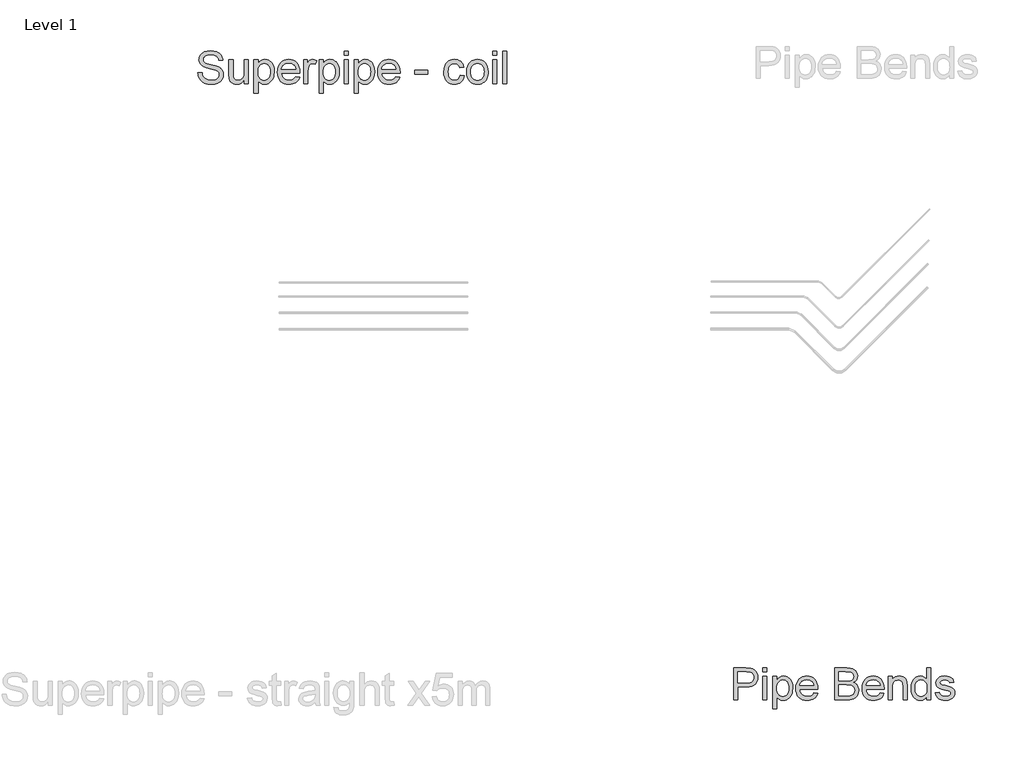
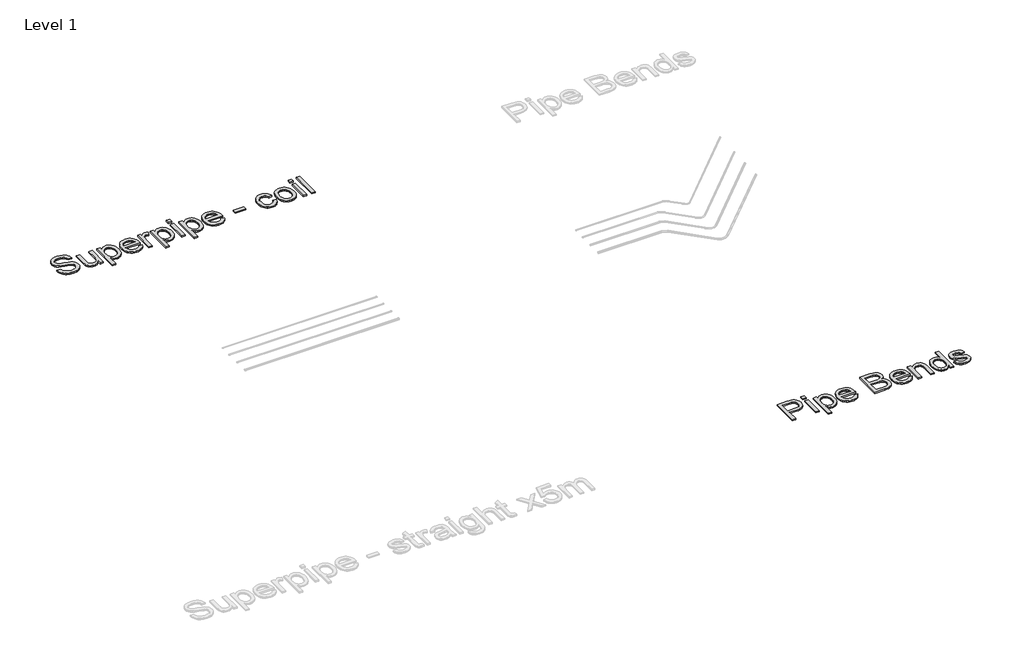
# One storey, part 9 of 58: 2 proxies.
"""IFC4 building model written with IfcOpenShell, lengths in millimetres."""

from ifc_helpers import new_model, si_unit, frame, origin, place, context, project, spatial, polyline, outline, extrude, element, save

model = new_model("IFC4")

# Units and contexts
model_context = context("Model", 3, world=origin())
ifc_project = project(units=[si_unit("LENGTHUNIT", "METRE", prefix="MILLI")], contexts=[model_context])

# Site, building, storey
site = spatial("IfcSite", under=ifc_project)
building = spatial("IfcBuilding", under=site)
storey = spatial("IfcBuildingStorey", under=building, Name="Level 1", Elevation=27.3876384)

# Proxies
placement = place(None, origin())
element("IfcBuildingElementProxy", 1, Name="600mm Arial", ObjectType="600mm Arial", at=placement, inside=storey, context=model_context, shape_type="SweptSolid", body=[
    extrude(outline(polyline([(-5306.6252631, 3428.1412239), (-5306.6252631, 4018.9104547), (-5087.6829554, 4018.9104547), (-5036.6973785, 4017.5042047), (-4999.4137246, 4013.2854547), (-4960.0567535, 4002.7746373), (-4927.6589169, 3985.6652623), (-4901.5711766, 3961.1820893), (-4881.1444939, 3928.5498777), (-4867.9473785, 3890.0582912), (-4863.54834, 3847.9969931), (-4866.5185924, 3811.7319691), (-4875.4293496, 3778.3695893), (-4890.2806117, 3747.9098537), (-4911.0723785, 3720.3527623), (-4939.6165492, 3697.5102143), (-4977.7250227, 3681.1941085), (-5025.3977992, 3671.404445), (-5082.6348785, 3668.1412239), (-5232.7791093, 3668.1412239), (-5232.7791093, 3428.1412239), (-5306.6252631, 3428.1412239)]), holes=[polyline([(-5232.7791093, 3741.9873777), (-5078.3079554, 3741.9873777), (-5042.7911285, 3743.6820893), (-5012.8271862, 3748.7662239), (-4988.4161285, 3757.2397816), (-4969.5579554, 3769.1027623), (-4955.486441, 3784.0396614), (-4945.4353593, 3801.7349739), (-4939.4047102, 3822.1886998), (-4937.3944939, 3845.4008393), (-4942.1360804, 3878.5739162), (-4956.36084, 3906.5546854), (-4978.3019458, 3927.6123777), (-5006.1925708, 3940.0162239), (-5034.6781477, 3943.8022816), (-5080.0387246, 3945.0643008), (-5232.7791093, 3945.0643008), (-5232.7791093, 3741.9873777)])]), frame((0.0, 0.0, 27.3876384), z_axis=(0.0, 0.0, 1.0), x_axis=(1.0, 0.0, 0.0)), (0.0, 0.0, 1.0), 30.0),
    extrude(outline(polyline([(-4771.2406477, 3428.1412239), (-4771.2406477, 3861.9873777), (-4697.3944939, 3861.9873777), (-4697.3944939, 3428.1412239), (-4771.2406477, 3428.1412239)])), frame((0.0, 0.0, 27.3876384), z_axis=(0.0, 0.0, 1.0), x_axis=(1.0, 0.0, 0.0)), (0.0, 0.0, 1.0), 30.0),
    extrude(outline(polyline([(-4771.2406477, 3945.0643008), (-4771.2406477, 4018.9104547), (-4697.3944939, 4018.9104547), (-4697.3944939, 3945.0643008), (-4771.2406477, 3945.0643008)])), frame((0.0, 0.0, 27.3876384), z_axis=(0.0, 0.0, 1.0), x_axis=(1.0, 0.0, 0.0)), (0.0, 0.0, 1.0), 30.0),
    extrude(outline(polyline([(-4586.6252631, 3261.9873777), (-4586.6252631, 3861.9873777), (-4512.7791093, 3861.9873777), (-4512.7791093, 3789.5835316), (-4488.6925708, 3825.2986758), (-4461.7214169, 3850.8094931), (-4430.2791093, 3866.1159835), (-4392.7791093, 3871.218147), (-4367.0249025, 3869.4332912), (-4342.8392054, 3864.0787239), (-4320.2220179, 3855.154445), (-4299.17334, 3842.6604547), (-4280.1529073, 3826.921272), (-4263.6204554, 3808.2614162), (-4249.5759843, 3786.6808873), (-4238.0194939, 3762.1796854), (-4222.5507439, 3707.7686277), (-4217.3944939, 3648.3816085), (-4223.2178112, 3585.2265604), (-4230.4969578, 3556.1505388), (-4240.6877631, 3528.7421854), (-4253.6505035, 3503.718147), (-4269.2454554, 3481.79507), (-4287.4726189, 3462.9729547), (-4308.3319939, 3447.2518008), (-4330.8004434, 3434.8524619), (-4353.8548304, 3425.9957912), (-4377.4951549, 3420.6817888), (-4401.7214169, 3418.9104547), (-4435.6697343, 3423.6520412), (-4465.9762246, 3437.8768008), (-4491.9197343, 3459.3491566), (-4512.7791093, 3485.8335316), (-4512.7791093, 3261.9873777), (-4586.6252631, 3261.9873777)]), holes=[polyline([(-4512.7791093, 3641.6027623), (-4510.7824145, 3606.01382), (-4504.7923304, 3575.4008393), (-4494.8088568, 3549.76382), (-4480.8319939, 3529.1027623), (-4464.0065732, 3513.20132), (-4445.4774266, 3501.843147), (-4425.244554, 3495.0282431), (-4403.3079554, 3492.7566085), (-4381.055852, 3495.1093729), (-4360.4533881, 3502.1676662), (-4341.5005636, 3513.9314883), (-4324.1973785, 3530.4008393), (-4309.7788088, 3551.8100941), (-4299.4798304, 3578.3936277), (-4293.3004434, 3610.1514402), (-4291.2406477, 3647.0835316), (-4293.2508641, 3682.3659835), (-4299.2815131, 3712.9248777), (-4309.3325948, 3738.7602143), (-4323.4041093, 3759.8719931), (-4340.2700948, 3776.2782431), (-4358.70459, 3787.9969931), (-4378.7075948, 3795.0282431), (-4400.2791093, 3797.3719931), (-4421.7830155, 3794.8795051), (-4442.0158881, 3787.4020412), (-4460.977727, 3774.9396013), (-4478.6685323, 3757.4921854), (-4493.5919097, 3735.2941686), (-4504.251465, 3708.5799258), (-4510.6471982, 3677.3494571), (-4512.7791093, 3641.6027623)])]), frame((0.0, 0.0, 27.3876384), z_axis=(0.0, 0.0, 1.0), x_axis=(1.0, 0.0, 0.0)), (0.0, 0.0, 1.0), 30.0),
    extrude(outline(polyline([(-3830.5675708, 3557.3719931), (-3758.1637246, 3548.1412239), (-3769.2649867, 3519.1418248), (-3784.251465, 3493.5859354), (-3803.1231597, 3471.4735556), (-3825.8800708, 3452.8046854), (-3852.2878232, 3437.9759595), (-3882.1120419, 3427.3840123), (-3915.352727, 3421.0288441), (-3952.0098785, 3418.9104547), (-3997.830191, 3422.5658032), (-4038.6565131, 3433.5318489), (-4074.4888448, 3451.8085917), (-4105.3271862, 3477.3960316), (-4130.1258641, 3509.5820292), (-4147.8392054, 3547.654445), (-4158.4672102, 3591.6132792), (-4162.0098785, 3641.4585316), (-4158.4311525, 3692.9939883), (-4147.6949746, 3738.4176662), (-4129.8013448, 3777.7295652), (-4104.7502631, 3810.9296854), (-4073.9930516, 3837.3058873), (-4038.9810323, 3856.1460316), (-3999.7142054, 3867.4501181), (-3956.1925708, 3871.218147), (-3914.072679, 3867.4591325), (-3875.9822343, 3856.1820893), (-3841.9212367, 3837.3870172), (-3811.8896862, 3811.0739162), (-3787.3749626, 3777.9459114), (-3769.8644458, 3738.7061277), (-3759.3581357, 3693.3545652), (-3755.8560323, 3641.8912239), (-3756.2887246, 3621.9873777), (-4088.1637246, 3621.9873777), (-4083.8863809, 3592.5192287), (-4075.3812727, 3566.7109354), (-4062.6484001, 3544.5624979), (-4045.6877631, 3526.0739162), (-4025.4368617, 3511.4975941), (-4002.8331958, 3501.0859354), (-3977.8767655, 3494.8389402), (-3950.5675708, 3492.7566085), (-3911.2646862, 3496.6147816), (-3878.1637246, 3508.1893008), (-3851.2646862, 3528.20132), (-3830.5675708, 3557.3719931)]), holes=[polyline([(-4088.1637246, 3695.8335316), (-3829.7021862, 3695.8335316), (-3839.6901669, 3734.8479547), (-3848.2809121, 3750.1905027), (-3859.2694939, 3762.7566085), (-3879.407715, 3777.9008393), (-3902.3223785, 3788.718147), (-3928.0134843, 3795.2085316), (-3956.4810323, 3797.3719931), (-3982.447078, 3795.6457311), (-4006.2586766, 3790.466945), (-4027.915828, 3781.8356349), (-4047.4185323, 3769.7518008), (-4063.7842174, 3754.7743369), (-4076.0303112, 3737.4621373), (-4084.1568136, 3717.8152022), (-4088.1637246, 3695.8335316)])]), frame((0.0, 0.0, 27.3876384), z_axis=(0.0, 0.0, 1.0), x_axis=(1.0, 0.0, 0.0)), (0.0, 0.0, 1.0), 30.0),
    extrude(outline(polyline([(-3442.0098785, 3428.1412239), (-3442.0098785, 4018.9104547), (-3216.5771862, 4018.9104547), (-3154.5759843, 4014.5655027), (-3106.1685323, 4001.530647), (-3069.0651669, 3979.4813681), (-3053.8938929, 3964.9546253), (-3040.9762246, 3948.093147), (-3023.2899266, 3911.17007), (-3017.3944939, 3872.5162239), (-3022.3524266, 3836.9453104), (-3037.2262246, 3803.5018008), (-3062.1240612, 3774.2409835), (-3097.1541093, 3751.218147), (-3074.8659482, 3741.716945), (-3055.3091573, 3729.3671854), (-3038.4837367, 3714.1688681), (-3024.3896862, 3696.1219931), (-3013.2523665, 3675.7764402), (-3005.2971381, 3653.6820893), (-3000.5240011, 3629.8389402), (-2998.9329554, 3604.2469931), (-3003.2779073, 3563.0510797), (-3016.3127631, 3524.8479547), (-3035.7658881, 3492.3599739), (-3059.3656477, 3468.3094931), (-3088.2658881, 3450.8936277), (-3123.6204554, 3438.3094931), (-3166.5831958, 3430.6832912), (-3218.3079554, 3428.1412239), (-3442.0098785, 3428.1412239)]), holes=[polyline([(-3368.1637246, 3501.9873777), (-3216.7214169, 3501.9873777), (-3161.9137246, 3504.8719931), (-3136.4750227, 3511.2722335), (-3115.5435323, 3520.9537239), (-3098.5243016, 3534.8179066), (-3084.8223785, 3553.7662239), (-3075.7899266, 3576.95132), (-3072.7791093, 3603.5258393), (-3076.3127631, 3634.3912239), (-3086.9137246, 3660.9296854), (-3105.4293496, 3681.6808873), (-3132.7069939, 3695.1844931), (-3171.3428112, 3702.5943489), (-3223.9329554, 3705.0643008), (-3368.1637246, 3705.0643008), (-3368.1637246, 3501.9873777)]), polyline([(-3368.1637246, 3778.9104547), (-3233.3079554, 3778.9104547), (-3186.1444939, 3780.4969931), (-3154.5579554, 3785.2566085), (-3126.9918496, 3796.2001181), (-3107.1781477, 3812.5883393), (-3095.2250227, 3834.1688681), (-3091.2406477, 3860.6893008), (-3094.95459, 3886.4344931), (-3106.0964169, 3908.8623777), (-3124.1613208, 3926.3683873), (-3148.6444939, 3937.3479547), (-3186.2166093, 3943.1352143), (-3243.54834, 3945.0643008), (-3368.1637246, 3945.0643008), (-3368.1637246, 3778.9104547)])]), frame((0.0, 0.0, 27.3876384), z_axis=(0.0, 0.0, 1.0), x_axis=(1.0, 0.0, 0.0)), (0.0, 0.0, 1.0), 30.0),
    extrude(outline(polyline([(-2602.8752631, 3557.3719931), (-2530.4714169, 3548.1412239), (-2541.572679, 3519.1418248), (-2556.5591573, 3493.5859354), (-2575.430852, 3471.4735556), (-2598.1877631, 3452.8046854), (-2624.5955155, 3437.9759595), (-2654.4197343, 3427.3840123), (-2687.6604193, 3421.0288441), (-2724.3175708, 3418.9104547), (-2770.1378833, 3422.5658032), (-2810.9642054, 3433.5318489), (-2846.7965371, 3451.8085917), (-2877.6348785, 3477.3960316), (-2902.4335564, 3509.5820292), (-2920.1468977, 3547.654445), (-2930.7749025, 3591.6132792), (-2934.3175708, 3641.4585316), (-2930.7388448, 3692.9939883), (-2920.0026669, 3738.4176662), (-2902.1090371, 3777.7295652), (-2877.0579554, 3810.9296854), (-2846.3007439, 3837.3058873), (-2811.2887246, 3856.1460316), (-2772.0218977, 3867.4501181), (-2728.5002631, 3871.218147), (-2686.3803713, 3867.4591325), (-2648.2899266, 3856.1820893), (-2614.228929, 3837.3870172), (-2584.1973785, 3811.0739162), (-2559.6826549, 3777.9459114), (-2542.1721381, 3738.7061277), (-2531.665828, 3693.3545652), (-2528.1637246, 3641.8912239), (-2528.5964169, 3621.9873777), (-2860.4714169, 3621.9873777), (-2856.1940732, 3592.5192287), (-2847.688965, 3566.7109354), (-2834.9560924, 3544.5624979), (-2817.9954554, 3526.0739162), (-2797.744554, 3511.4975941), (-2775.1408881, 3501.0859354), (-2750.1844578, 3494.8389402), (-2722.8752631, 3492.7566085), (-2683.5723785, 3496.6147816), (-2650.4714169, 3508.1893008), (-2623.5723785, 3528.20132), (-2602.8752631, 3557.3719931)]), holes=[polyline([(-2860.4714169, 3695.8335316), (-2602.0098785, 3695.8335316), (-2611.9978593, 3734.8479547), (-2620.5886044, 3750.1905027), (-2631.5771862, 3762.7566085), (-2651.7154073, 3777.9008393), (-2674.6300708, 3788.718147), (-2700.3211766, 3795.2085316), (-2728.7887246, 3797.3719931), (-2754.7547703, 3795.6457311), (-2778.5663689, 3790.466945), (-2800.2235203, 3781.8356349), (-2819.7262246, 3769.7518008), (-2836.0919097, 3754.7743369), (-2848.3380035, 3737.4621373), (-2856.4645059, 3717.8152022), (-2860.4714169, 3695.8335316)])]), frame((0.0, 0.0, 27.3876384), z_axis=(0.0, 0.0, 1.0), x_axis=(1.0, 0.0, 0.0)), (0.0, 0.0, 1.0), 30.0),
    extrude(outline(polyline([(-2454.3175708, 3428.1412239), (-2454.3175708, 3861.9873777), (-2380.4714169, 3861.9873777), (-2380.4714169, 3801.4104547), (-2354.8163689, 3831.95132), (-2324.0050708, 3853.7662239), (-2288.0375227, 3866.8551662), (-2246.9137246, 3871.218147), (-2210.5134843, 3867.702522), (-2177.1781477, 3857.155647), (-2149.3776669, 3840.8936277), (-2129.5819939, 3820.23257), (-2116.1505035, 3795.2265604), (-2107.4425708, 3765.9296854), (-2103.54834, 3694.5354547), (-2103.54834, 3428.1412239), (-2177.3944939, 3428.1412239), (-2177.3944939, 3684.5835316), (-2179.5218977, 3722.7686277), (-2185.9041093, 3749.92007), (-2197.6769458, 3769.373195), (-2215.9762246, 3784.4633393), (-2239.4317535, 3794.1448297), (-2266.67334, 3797.3719931), (-2289.0967174, 3795.5600941), (-2309.9245419, 3790.124397), (-2329.1568136, 3781.0649018), (-2346.7935323, 3768.3816085), (-2361.5276068, 3750.6322095), (-2372.0519458, 3726.374397), (-2378.3665492, 3695.608171), (-2380.4714169, 3658.3335316), (-2380.4714169, 3428.1412239), (-2454.3175708, 3428.1412239)])), frame((0.0, 0.0, 27.3876384), z_axis=(0.0, 0.0, 1.0), x_axis=(1.0, 0.0, 0.0)), (0.0, 0.0, 1.0), 30.0),
    extrude(outline(polyline([(-1734.3175708, 3428.1412239), (-1734.3175708, 3497.8046854), (-1756.4119218, 3463.2884595), (-1783.1757439, 3438.6340123), (-1814.6090371, 3423.8413441), (-1850.7118016, 3418.9104547), (-1875.0868016, 3420.6953104), (-1898.4521862, 3426.0498777), (-1920.8079554, 3434.9741566), (-1942.1541093, 3447.468147), (-1961.8235804, 3463.1577503), (-1979.1493016, 3481.6688681), (-1994.1312727, 3503.0015003), (-2006.7694939, 3527.155647), (-2016.8025468, 3553.6715724), (-2023.9690131, 3582.0895412), (-2029.7021862, 3644.6316085), (-2024.4197343, 3706.3984354), (-2008.5723785, 3762.1796854), (-1996.6913689, 3787.0324498), (-1982.1781477, 3808.8022816), (-1965.032715, 3827.4891806), (-1945.2550708, 3843.093147), (-1923.5438328, 3855.3978345), (-1900.5976189, 3864.186897), (-1876.416429, 3869.4603345), (-1851.0002631, 3871.218147), (-1814.8704554, 3866.1880989), (-1782.92334, 3851.0979547), (-1755.8440131, 3827.966945), (-1734.3175708, 3798.8143008), (-1734.3175708, 4018.9104547), (-1660.4714169, 4018.9104547), (-1660.4714169, 3428.1412239), (-1734.3175708, 3428.1412239)]), holes=[polyline([(-1955.8560323, 3644.92007), (-1953.7737006, 3609.1102744), (-1947.5267054, 3578.123195), (-1937.1150468, 3551.9588321), (-1922.5387246, 3530.6171854), (-1905.1318737, 3514.053183), (-1886.2286285, 3502.2217527), (-1865.8289891, 3495.1228946), (-1843.9329554, 3492.7566085), (-1821.9332559, 3495.0147215), (-1801.6553112, 3501.7890604), (-1783.0991213, 3513.0796253), (-1766.2646862, 3528.8864162), (-1752.2878232, 3549.3356349), (-1742.3043496, 3574.5534835), (-1736.3142655, 3604.5399619), (-1734.3175708, 3639.29507), (-1736.3503232, 3677.3990364), (-1742.4485804, 3710.07632), (-1752.6123424, 3737.326921), (-1766.8416093, 3759.1508393), (-1784.0456357, 3775.8725941), (-1803.1336766, 3787.8167047), (-1824.1057318, 3794.983171), (-1846.9618016, 3797.3719931), (-1869.2905275, 3795.0778224), (-1889.6901669, 3788.1953104), (-1908.1607198, 3776.7244571), (-1924.7021862, 3760.6652623), (-1938.3319939, 3739.6661638), (-1948.0675708, 3713.3755989), (-1953.9089169, 3681.7935676), (-1955.8560323, 3644.92007)])]), frame((0.0, 0.0, 27.3876384), z_axis=(0.0, 0.0, 1.0), x_axis=(1.0, 0.0, 0.0)), (0.0, 0.0, 1.0), 30.0),
    extrude(outline(polyline([(-1577.3944939, 3557.3719931), (-1503.54834, 3566.6027623), (-1499.0862006, 3549.76382), (-1491.9017054, 3535.0162239), (-1481.9948544, 3522.3599739), (-1469.3656477, 3511.79507), (-1453.9780275, 3503.4657431), (-1435.7959362, 3497.5162239), (-1391.04834, 3492.7566085), (-1346.8416093, 3497.1195893), (-1329.6601189, 3502.5733152), (-1315.7598785, 3510.2085316), (-1297.3704554, 3529.1748777), (-1291.2406477, 3551.17007), (-1292.7821141, 3561.140022), (-1297.4065131, 3569.9921854), (-1315.9041093, 3584.343147), (-1343.5603593, 3593.718147), (-1391.9137246, 3605.4008393), (-1459.3055516, 3624.890022), (-1503.1156477, 3641.530647), (-1531.2586766, 3659.685695), (-1551.6493016, 3683.718147), (-1564.0351189, 3712.0955508), (-1568.1637246, 3743.2854547), (-1564.8464169, 3771.8972335), (-1554.8944939, 3798.3094931), (-1539.2093977, 3821.4765604), (-1518.6925708, 3840.3527623), (-1498.3019458, 3852.233772), (-1471.7454554, 3862.2037239), (-1441.0423304, 3868.9645412), (-1408.2118016, 3871.218147), (-1360.1468977, 3867.5943489), (-1318.3560323, 3856.7229547), (-1284.7502631, 3839.6676662), (-1261.2406477, 3817.4921854), (-1245.6637246, 3788.5558873), (-1235.8560323, 3751.218147), (-1309.7021862, 3741.9873777), (-1319.0230996, 3765.2265604), (-1337.4666093, 3782.73257), (-1365.2130035, 3793.7121373), (-1402.4425708, 3797.3719931), (-1444.8464169, 3793.874397), (-1473.1156477, 3783.3816085), (-1489.01709, 3768.2373777), (-1494.3175708, 3750.7854547), (-1492.1180516, 3739.4272816), (-1485.5194939, 3729.29507), (-1474.2334362, 3720.2445893), (-1457.9714169, 3712.9969931), (-1394.3656477, 3697.2758393), (-1285.9762246, 3662.5162239), (-1257.3464169, 3645.8936277), (-1235.6396862, 3623.1412239), (-1221.9557919, 3594.186897), (-1217.3944939, 3558.9585316), (-1222.7490612, 3522.5402623), (-1238.8127631, 3488.2854547), (-1264.9726189, 3458.8804066), (-1300.6156477, 3437.0114162), (-1343.6685323, 3423.435695), (-1392.0579554, 3418.9104547), (-1431.8025468, 3421.091945), (-1466.51709, 3427.6364162), (-1496.2015852, 3438.5438681), (-1520.8560323, 3453.8143008), (-1540.9942535, 3473.3755989), (-1557.1300708, 3497.155647), (-1569.2634843, 3525.154445), (-1577.3944939, 3557.3719931)])), frame((0.0, 0.0, 27.3876384), z_axis=(0.0, 0.0, 1.0), x_axis=(1.0, 0.0, 0.0)), (0.0, 0.0, 1.0), 30.0),
])
element("IfcBuildingElementProxy", 2, Name="600mm Arial", ObjectType="600mm Arial", at=placement, inside=storey, context=model_context, shape_type="SweptSolid", body=[
    extrude(outline(polyline([(-15222.1955142, 15041.5710619), (-15146.8532816, 15041.5710619), (-15138.2080547, 14999.7612731), (-15122.5730699, 14966.1552529), (-15098.1824936, 14939.4838082), (-15063.2704923, 14918.4777463), (-15020.5961809, 14904.8477184), (-14972.9186743, 14900.3043757), (-14930.9433386, 14903.7440724), (-14894.1919273, 14914.0631623), (-14864.4118798, 14930.3971229), (-14843.3506356, 14951.8814314), (-14830.8242536, 14976.5479192), (-14826.648793, 15002.4284176), (-14829.77579, 15027.6467284), (-14839.1567808, 15049.4437366), (-14858.2130682, 15068.0401714), (-14890.3659546, 15083.6567621), (-15000.0683655, 15112.4251341), (-15072.0812661, 15131.4630274), (-15118.158486, 15149.5812157), (-15155.6640554, 15174.9282851), (-15182.2435295, 15205.6464317), (-15198.0808494, 15241.0734679), (-15203.3599561, 15280.5472059), (-15201.7274797, 15302.9834091), (-15196.8300506, 15324.6746513), (-15188.6676689, 15345.6209324), (-15177.2403344, 15365.8222524), (-15162.6768059, 15384.4554755), (-15145.1058421, 15400.6974656), (-15124.527443, 15414.5482227), (-15100.9416086, 15426.0077468), (-15047.9298131, 15441.4036083), (-14989.2526349, 15446.5355622), (-14925.6826261, 15441.164485), (-14870.0588684, 15425.0512536), (-14845.7234744, 15413.0491036), (-14824.3679246, 15398.5269618), (-14805.992219, 15381.4848284), (-14790.5963575, 15361.9227033), (-14778.2999018, 15340.4108036), (-14769.2224135, 15317.5193465), (-14763.3638928, 15293.2483318), (-14760.7243395, 15267.5977597), (-14836.0665721, 15267.5977597), (-14841.1065554, 15291.6388481), (-14849.8989351, 15312.5529395), (-14862.4437111, 15330.340034), (-14878.7408835, 15345.0001315), (-14899.0939549, 15356.4596556), (-14923.8064279, 15364.64503), (-14952.8783026, 15369.5562547), (-14986.3095789, 15371.1933296), (-15020.807713, 15369.5746488), (-15050.2842579, 15364.7186064), (-15074.7392135, 15356.6252025), (-15094.1725799, 15345.2944371), (-15108.9798302, 15331.6736062), (-15119.5564376, 15316.7100061), (-15125.902402, 15300.4036366), (-15128.0177234, 15282.7544979), (-15126.5186043, 15267.5701686), (-15122.0212469, 15253.8021849), (-15114.5256513, 15241.4505469), (-15104.0318174, 15230.5152546), (-15087.5139158, 15220.1593764), (-15061.5046587, 15209.6931337), (-14981.0120782, 15188.4295543), (-14897.9443237, 15168.2328328), (-14847.6916431, 15150.6112852), (-14804.7414202, 15123.277653), (-14788.1361466, 15107.2104069), (-14774.7774317, 15089.542874), (-14764.5089255, 15070.367025), (-14757.1742782, 15049.7748304), (-14751.3065604, 15004.341404), (-14752.994219, 14980.7739636), (-14758.057195, 14957.8963021), (-14766.4954883, 14935.7084192), (-14778.3090988, 14914.2103151), (-14793.2910931, 14894.2343228), (-14811.2345374, 14876.6127752), (-14832.1394318, 14861.3456724), (-14856.0057762, 14848.4330144), (-14882.1391934, 14838.1645082), (-14909.8453062, 14830.8298609), (-14969.9756183, 14824.9621431), (-15008.5158558, 14826.5440357), (-15043.7911406, 14831.2897134), (-15075.8014728, 14839.1991763), (-15104.5468522, 14850.2724244), (-15130.2020228, 14864.5278517), (-15152.9417286, 14881.9838524), (-15172.7659696, 14902.6404264), (-15189.6747458, 14926.4975738), (-15203.2955767, 14952.7827423), (-15213.2559817, 14980.7233799), (-15219.5559609, 15010.3194864), (-15222.1955142, 15041.5710619)])), frame((0.0, 0.0, 27.3876384), z_axis=(0.0, 0.0, 1.0), x_axis=(1.0, 0.0, 0.0)), (0.0, 0.0, 1.0), 30.0),
    extrude(outline(polyline([(-14365.1776182, 14834.3799222), (-14365.1776182, 14910.4579188), (-14392.4376741, 14873.0535169), (-14424.1858903, 14846.336087), (-14460.4222668, 14830.3056291), (-14501.1468037, 14824.9621431), (-14537.8430327, 14828.7145395), (-14572.0008759, 14839.9717285), (-14600.6588834, 14856.8943003), (-14620.8556049, 14877.6428448), (-14634.4488446, 14902.8427615), (-14643.2964066, 14933.1194497), (-14647.7109905, 15003.1641816), (-14647.7109905, 15277.0155388), (-14572.3687579, 15277.0155388), (-14572.3687579, 15038.6280059), (-14571.2283237, 14990.9504993), (-14567.8070212, 14961.8142453), (-14556.8257436, 14936.1912644), (-14538.0085796, 14916.7119127), (-14512.6063278, 14904.40626), (-14481.8697871, 14900.3043757), (-14449.3674128, 14904.4982305), (-14418.9619659, 14917.0797947), (-14393.890808, 14936.8902401), (-14377.3913005, 14962.7707385), (-14368.2310388, 14998.2161687), (-14365.1776182, 15046.7214098), (-14365.1776182, 15277.0155388), (-14289.8353856, 15277.0155388), (-14289.8353856, 14834.3799222), (-14365.1776182, 14834.3799222)])), frame((0.0, 0.0, 27.3876384), z_axis=(0.0, 0.0, 1.0), x_axis=(1.0, 0.0, 0.0)), (0.0, 0.0, 1.0), 30.0),
    extrude(outline(polyline([(-14186.2398158, 14664.8598988), (-14186.2398158, 15277.0155388), (-14110.8975832, 15277.0155388), (-14110.8975832, 15203.1448342), (-14086.3230659, 15239.5835458), (-14058.8054927, 15265.6111969), (-14026.7261827, 15281.2277876), (-13988.4664552, 15286.4333179), (-13962.1904837, 15284.612302), (-13937.5147989, 15279.1492544), (-13914.4394007, 15270.044175), (-13892.9642892, 15257.2970638), (-13873.558514, 15241.2390148), (-13856.6911245, 15222.2011215), (-13842.3621208, 15200.1833841), (-13830.5715029, 15175.1858025), (-13814.7893653, 15119.6724094), (-13809.5286527, 15059.0822448), (-13815.469947, 14994.6477134), (-13822.8965647, 14964.982629), (-13833.2938296, 14937.0189988), (-13846.5191873, 14911.4879884), (-13862.4300836, 14889.1207631), (-13881.0265185, 14869.9173229), (-13902.3084919, 14853.8776679), (-13925.2321387, 14841.2271258), (-13948.7535938, 14832.1910243), (-13972.8728571, 14826.7693634), (-13997.5899287, 14824.9621431), (-14032.2260185, 14829.7997914), (-14063.1465002, 14844.3127361), (-14089.6156098, 14866.2201089), (-14110.8975832, 14893.2410414), (-14110.8975832, 14664.8598988), (-14186.2398158, 14664.8598988)]), holes=[polyline([(-14110.8975832, 15052.1660633), (-14108.8604366, 15015.8561104), (-14102.748997, 14984.622929), (-14092.5632642, 14958.4665192), (-14078.3032384, 14937.3868808), (-14061.1369448, 14921.1632849), (-14042.2324088, 14909.575002), (-14021.5896303, 14902.6220323), (-13999.2086094, 14900.3043757), (-13976.5056918, 14902.7048057), (-13955.4858343, 14909.9060958), (-13936.1490369, 14921.9082459), (-13918.4952997, 14938.711256), (-13903.7846184, 14960.5542495), (-13893.2769889, 14987.6763496), (-13886.9724112, 15020.0775563), (-13884.8708853, 15057.7578697), (-13886.9218275, 15093.7551229), (-13893.0746538, 15124.933122), (-13903.3293645, 15151.2918669), (-13917.6859593, 15172.8313578), (-13934.8936396, 15189.5699885), (-13953.7016066, 15201.5261534), (-13974.1098603, 15208.6998523), (-13996.1184007, 15211.0910853), (-14018.0579632, 15208.548101), (-14038.7007416, 15200.9191481), (-14058.046736, 15188.2042266), (-14076.0959464, 15170.4033366), (-14091.3216625, 15147.7556013), (-14102.197174, 15120.5001439), (-14108.7224809, 15088.6369646), (-14110.8975832, 15052.1660633)])]), frame((0.0, 0.0, 27.3876384), z_axis=(0.0, 0.0, 1.0), x_axis=(1.0, 0.0, 0.0)), (0.0, 0.0, 1.0), 30.0),
    extrude(outline(polyline([(-13414.8648483, 14966.2288293), (-13340.9941437, 14956.8110502), (-13352.3203106, 14927.2241407), (-13367.610406, 14901.1505043), (-13386.8644299, 14878.590141), (-13410.0823824, 14859.5430507), (-13437.02514, 14844.4139036), (-13467.4535795, 14833.60737), (-13501.3677009, 14827.1234498), (-13538.7675043, 14824.9621431), (-13585.5161088, 14828.6915468), (-13627.1695477, 14839.879758), (-13663.727821, 14858.5267766), (-13695.1909286, 14884.6326027), (-13720.4920128, 14917.4706693), (-13738.5642159, 14956.3144095), (-13749.4075377, 15001.1638232), (-13753.0219783, 15052.0189105), (-13749.3707495, 15104.5984447), (-13738.4170631, 15150.942379), (-13720.1609191, 15191.0507136), (-13694.6023174, 15224.9234483), (-13663.2219832, 15251.8340162), (-13627.5006415, 15271.0558505), (-13587.4382922, 15282.588951), (-13543.0349354, 15286.4333179), (-13500.0617199, 15282.5981481), (-13461.1995856, 15271.0926387), (-13426.4485326, 15251.9167897), (-13395.808561, 15225.0706011), (-13370.7971838, 15191.2714428), (-13352.9319144, 15151.2366846), (-13342.2127528, 15104.9663267), (-13338.6396989, 15052.4603689), (-13339.0811573, 15032.1532828), (-13677.6797457, 15032.1532828), (-13673.3157455, 15002.0881267), (-13664.6383289, 14975.7569729), (-13651.647496, 14953.1598214), (-13634.3432466, 14934.2966721), (-13613.6820741, 14919.4250424), (-13590.6204715, 14908.8024498), (-13565.1584389, 14902.4288942), (-13537.2959763, 14900.3043757), (-13497.1968388, 14904.2407131), (-13463.4252717, 14916.0497251), (-13435.9812748, 14936.4671759), (-13414.8648483, 14966.2288293)]), holes=[polyline([(-13677.6797457, 15107.4955154), (-13413.9819315, 15107.4955154), (-13424.1722628, 15147.3003473), (-13432.9370513, 15162.9537262), (-13444.1482551, 15175.7744137), (-13464.6944646, 15191.2254575), (-13488.0733653, 15202.2619174), (-13514.2849575, 15208.8837933), (-13543.329241, 15211.0910853), (-13569.8213432, 15209.3298502), (-13594.1153505, 15204.046145), (-13616.2112628, 15195.2399698), (-13636.1090802, 15182.9113244), (-13652.8063243, 15167.630426), (-13665.3005165, 15149.9674918), (-13673.591657, 15129.9225215), (-13677.6797457, 15107.4955154)])]), frame((0.0, 0.0, 27.3876384), z_axis=(0.0, 0.0, 1.0), x_axis=(1.0, 0.0, 0.0)), (0.0, 0.0, 1.0), 30.0),
    extrude(outline(polyline([(-13263.2974663, 14834.3799222), (-13263.2974663, 15277.0155388), (-13197.3730128, 15277.0155388), (-13197.3730128, 15211.5325436), (-13173.0192247, 15249.4979655), (-13150.578423, 15271.8651909), (-13128.0640449, 15282.7912861), (-13103.4895276, 15286.4333179), (-13065.9655641, 15280.6207823), (-13027.8529894, 15263.1831758), (-13053.0161178, 15195.6400415), (-13079.5036215, 15207.2283243), (-13105.9911252, 15211.0910853), (-13128.4871092, 15207.3754771), (-13148.5918602, 15196.2286526), (-13164.8338503, 15178.4967405), (-13175.7415514, 15155.0258692), (-13184.9018131, 15112.9401689), (-13187.9552337, 15067.0284959), (-13187.9552337, 14834.3799222), (-13263.2974663, 14834.3799222)])), frame((0.0, 0.0, 27.3876384), z_axis=(0.0, 0.0, 1.0), x_axis=(1.0, 0.0, 0.0)), (0.0, 0.0, 1.0), 30.0),
    extrude(outline(polyline([(-12980.764094, 14664.8598988), (-12980.764094, 15277.0155388), (-12905.4218614, 15277.0155388), (-12905.4218614, 15203.1448342), (-12880.8473441, 15239.5835458), (-12853.3297709, 15265.6111969), (-12821.2504609, 15281.2277876), (-12782.9907334, 15286.4333179), (-12756.7147619, 15284.612302), (-12732.0390771, 15279.1492544), (-12708.9636789, 15270.044175), (-12687.4885674, 15257.2970638), (-12668.0827922, 15241.2390148), (-12651.2154027, 15222.2011215), (-12636.886399, 15200.1833841), (-12625.0957811, 15175.1858025), (-12609.3136435, 15119.6724094), (-12604.0529309, 15059.0822448), (-12609.9942252, 14994.6477134), (-12617.4208429, 14964.982629), (-12627.8181078, 14937.0189988), (-12641.0434656, 14911.4879884), (-12656.9543618, 14889.1207631), (-12675.5507967, 14869.9173229), (-12696.8327701, 14853.8776679), (-12719.7564169, 14841.2271258), (-12743.277872, 14832.1910243), (-12767.3971353, 14826.7693634), (-12792.1142069, 14824.9621431), (-12826.7502967, 14829.7997914), (-12857.6707784, 14844.3127361), (-12884.139888, 14866.2201089), (-12905.4218614, 14893.2410414), (-12905.4218614, 14664.8598988), (-12980.764094, 14664.8598988)]), holes=[polyline([(-12905.4218614, 15052.1660633), (-12903.3847148, 15015.8561104), (-12897.2732752, 14984.622929), (-12887.0875425, 14958.4665192), (-12872.8275166, 14937.3868808), (-12855.661223, 14921.1632849), (-12836.756687, 14909.575002), (-12816.1139085, 14902.6220323), (-12793.7328876, 14900.3043757), (-12771.02997, 14902.7048057), (-12750.0101125, 14909.9060958), (-12730.6733152, 14921.9082459), (-12713.0195779, 14938.711256), (-12698.3088966, 14960.5542495), (-12687.8012671, 14987.6763496), (-12681.4966894, 15020.0775563), (-12679.3951635, 15057.7578697), (-12681.4461057, 15093.7551229), (-12687.598932, 15124.933122), (-12697.8536427, 15151.2918669), (-12712.2102375, 15172.8313578), (-12729.4179178, 15189.5699885), (-12748.2258848, 15201.5261534), (-12768.6341385, 15208.6998523), (-12790.6426789, 15211.0910853), (-12812.5822414, 15208.548101), (-12833.2250198, 15200.9191481), (-12852.5710143, 15188.2042266), (-12870.6202246, 15170.4033366), (-12885.8459407, 15147.7556013), (-12896.7214522, 15120.5001439), (-12903.2467591, 15088.6369646), (-12905.4218614, 15052.1660633)])]), frame((0.0, 0.0, 27.3876384), z_axis=(0.0, 0.0, 1.0), x_axis=(1.0, 0.0, 0.0)), (0.0, 0.0, 1.0), 30.0),
    extrude(outline(polyline([(-12519.2929192, 15361.7755505), (-12519.2929192, 15437.1177831), (-12443.9506866, 15437.1177831), (-12443.9506866, 15361.7755505), (-12519.2929192, 15361.7755505)])), frame((0.0, 0.0, 27.3876384), z_axis=(0.0, 0.0, 1.0), x_axis=(1.0, 0.0, 0.0)), (0.0, 0.0, 1.0), 30.0),
    extrude(outline(polyline([(-12519.2929192, 14834.3799222), (-12519.2929192, 15277.0155388), (-12443.9506866, 15277.0155388), (-12443.9506866, 14834.3799222), (-12519.2929192, 14834.3799222)])), frame((0.0, 0.0, 27.3876384), z_axis=(0.0, 0.0, 1.0), x_axis=(1.0, 0.0, 0.0)), (0.0, 0.0, 1.0), 30.0),
    extrude(outline(polyline([(-12330.9373377, 14664.8598988), (-12330.9373377, 15277.0155388), (-12255.5951051, 15277.0155388), (-12255.5951051, 15203.1448342), (-12231.0205878, 15239.5835458), (-12203.5030146, 15265.6111969), (-12171.4237046, 15281.2277876), (-12133.1639771, 15286.4333179), (-12106.8880056, 15284.612302), (-12082.2123208, 15279.1492544), (-12059.1369226, 15270.044175), (-12037.6618112, 15257.2970638), (-12018.2560359, 15241.2390148), (-12001.3886464, 15222.2011215), (-11987.0596427, 15200.1833841), (-11975.2690248, 15175.1858025), (-11959.4868872, 15119.6724094), (-11954.2261747, 15059.0822448), (-11960.1674689, 14994.6477134), (-11967.5940867, 14964.982629), (-11977.9913515, 14937.0189988), (-11991.2167093, 14911.4879884), (-12007.1276056, 14889.1207631), (-12025.7240404, 14869.9173229), (-12047.0060138, 14853.8776679), (-12069.9296607, 14841.2271258), (-12093.4511157, 14832.1910243), (-12117.570379, 14826.7693634), (-12142.2874506, 14824.9621431), (-12176.9235404, 14829.7997914), (-12207.8440221, 14844.3127361), (-12234.3131317, 14866.2201089), (-12255.5951051, 14893.2410414), (-12255.5951051, 14664.8598988), (-12330.9373377, 14664.8598988)]), holes=[polyline([(-12255.5951051, 15052.1660633), (-12253.5579586, 15015.8561104), (-12247.4465189, 14984.622929), (-12237.2607862, 14958.4665192), (-12223.0007603, 14937.3868808), (-12205.8344667, 14921.1632849), (-12186.9299307, 14909.575002), (-12166.2871523, 14902.6220323), (-12143.9061314, 14900.3043757), (-12121.2032137, 14902.7048057), (-12100.1833562, 14909.9060958), (-12080.8465589, 14921.9082459), (-12063.1928216, 14938.711256), (-12048.4821403, 14960.5542495), (-12037.9745109, 14987.6763496), (-12031.6699332, 15020.0775563), (-12029.5684073, 15057.7578697), (-12031.6193494, 15093.7551229), (-12037.7721758, 15124.933122), (-12048.0268864, 15151.2918669), (-12062.3834812, 15172.8313578), (-12079.5911616, 15189.5699885), (-12098.3991286, 15201.5261534), (-12118.8073822, 15208.6998523), (-12140.8159226, 15211.0910853), (-12162.7554851, 15208.548101), (-12183.3982636, 15200.9191481), (-12202.744258, 15188.2042266), (-12220.7934684, 15170.4033366), (-12236.0191844, 15147.7556013), (-12246.8946959, 15120.5001439), (-12253.4200028, 15088.6369646), (-12255.5951051, 15052.1660633)])]), frame((0.0, 0.0, 27.3876384), z_axis=(0.0, 0.0, 1.0), x_axis=(1.0, 0.0, 0.0)), (0.0, 0.0, 1.0), 30.0),
    extrude(outline(polyline([(-11559.5623702, 14966.2288293), (-11485.6916656, 14956.8110502), (-11497.0178325, 14927.2241407), (-11512.3079279, 14901.1505043), (-11531.5619519, 14878.590141), (-11554.7799043, 14859.5430507), (-11581.7226619, 14844.4139036), (-11612.1511014, 14833.60737), (-11646.0652229, 14827.1234498), (-11683.4650262, 14824.9621431), (-11730.2136307, 14828.6915468), (-11771.8670696, 14839.879758), (-11808.4253429, 14858.5267766), (-11839.8884506, 14884.6326027), (-11865.1895348, 14917.4706693), (-11883.2617378, 14956.3144095), (-11894.1050596, 15001.1638232), (-11897.7195002, 15052.0189105), (-11894.0682714, 15104.5984447), (-11883.114585, 15150.942379), (-11864.858441, 15191.0507136), (-11839.2998394, 15224.9234483), (-11807.9195052, 15251.8340162), (-11772.1981634, 15271.0558505), (-11732.1358142, 15282.588951), (-11687.7324573, 15286.4333179), (-11644.7592418, 15282.5981481), (-11605.8971075, 15271.0926387), (-11571.1460546, 15251.9167897), (-11540.5060829, 15225.0706011), (-11515.4947057, 15191.2714428), (-11497.6294363, 15151.2366846), (-11486.9102747, 15104.9663267), (-11483.3372208, 15052.4603689), (-11483.7786792, 15032.1532828), (-11822.3772676, 15032.1532828), (-11818.0132674, 15002.0881267), (-11809.3358509, 14975.7569729), (-11796.3450179, 14953.1598214), (-11779.0407686, 14934.2966721), (-11758.379596, 14919.4250424), (-11735.3179934, 14908.8024498), (-11709.8559608, 14902.4288942), (-11681.9934982, 14900.3043757), (-11641.8943608, 14904.2407131), (-11608.1227936, 14916.0497251), (-11580.6787968, 14936.4671759), (-11559.5623702, 14966.2288293)]), holes=[polyline([(-11822.3772676, 15107.4955154), (-11558.6794534, 15107.4955154), (-11568.8697847, 15147.3003473), (-11577.6345732, 15162.9537262), (-11588.845777, 15175.7744137), (-11609.3919865, 15191.2254575), (-11632.7708873, 15202.2619174), (-11658.9824794, 15208.8837933), (-11688.0267629, 15211.0910853), (-11714.5188651, 15209.3298502), (-11738.8128724, 15204.046145), (-11760.9087847, 15195.2399698), (-11780.8066021, 15182.9113244), (-11797.5038462, 15167.630426), (-11809.9980384, 15149.9674918), (-11818.2891789, 15129.9225215), (-11822.3772676, 15107.4955154)])]), frame((0.0, 0.0, 27.3876384), z_axis=(0.0, 0.0, 1.0), x_axis=(1.0, 0.0, 0.0)), (0.0, 0.0, 1.0), 30.0),
    extrude(outline(polyline([(-11210.2216276, 15013.3177246), (-11210.2216276, 15088.6599573), (-10974.7771507, 15088.6599573), (-10974.7771507, 15013.3177246), (-11210.2216276, 15013.3177246)])), frame((0.0, 0.0, 27.3876384), z_axis=(0.0, 0.0, 1.0), x_axis=(1.0, 0.0, 0.0)), (0.0, 0.0, 1.0), 30.0),
    extrude(outline(polyline([(-10372.0392898, 14994.4821665), (-10296.6970572, 14985.0643874), (-10304.8916286, 14949.5131911), (-10317.7031191, 14918.054682), (-10335.1315286, 14890.6888601), (-10357.1768572, 14867.4157254), (-10382.9102028, 14848.8422831), (-10411.4026633, 14835.5755387), (-10442.6542388, 14827.615492), (-10476.6649292, 14824.9621431), (-10518.9207749, 14828.6639557), (-10556.8080219, 14839.7693934), (-10590.3266702, 14858.2784563), (-10619.4767198, 14884.1911443), (-10643.0717512, 14917.0200139), (-10659.9253451, 14956.2776213), (-10670.0375015, 15001.9639666), (-10673.4082202, 15054.0790497), (-10667.650867, 15121.1255433), (-10660.4541755, 15151.2964655), (-10650.3788074, 15179.2325045), (-10637.3557847, 15204.3726403), (-10621.3161297, 15226.155853), (-10602.2598424, 15244.5821424), (-10580.1869227, 15259.6515086), (-10556.0952505, 15271.3685502), (-10530.9827058, 15279.7378656), (-10504.8492886, 15284.7594548), (-10477.6949988, 15286.4333179), (-10444.268321, 15284.1340554), (-10414.0330195, 15277.236268), (-10386.9890944, 15265.7399556), (-10363.1365455, 15249.6451183), (-10342.8800432, 15229.3196381), (-10326.6242575, 15205.1313969), (-10314.3691885, 15177.0803948), (-10306.1148363, 15145.1666317), (-10381.4570689, 15135.7488526), (-10395.123885, 15168.6191089), (-10416.4058584, 15192.1819507), (-10444.1257668, 15206.3638016), (-10477.1063876, 15211.0910853), (-10502.706376, 15208.7642316), (-10525.7955697, 15201.7836708), (-10546.3739688, 15190.1494027), (-10564.4415733, 15173.8614273), (-10579.1522546, 15152.5426657), (-10589.659884, 15125.8160388), (-10595.9644617, 15093.6815465), (-10598.0659876, 15056.1391889), (-10596.010447, 15018.0312127), (-10589.843825, 14985.5242399), (-10579.5661218, 14958.6182705), (-10565.1773373, 14937.3133044), (-10547.4684177, 14921.1218981), (-10527.2303095, 14909.5566079), (-10504.4630125, 14902.6174338), (-10479.1665268, 14900.3043757), (-10440.1526412, 14906.0801231), (-10423.2806532, 14913.2998072), (-10408.1653017, 14923.407365), (-10395.2296511, 14936.5131611), (-10384.8967655, 14952.72756), (-10377.1666451, 14972.0505618), (-10372.0392898, 14994.4821665)])), frame((0.0, 0.0, 27.3876384), z_axis=(0.0, 0.0, 1.0), x_axis=(1.0, 0.0, 0.0)), (0.0, 0.0, 1.0), 30.0),
    extrude(outline(polyline([(-10249.6081618, 15055.6977305), (-10245.5338687, 15113.0229424), (-10233.3109894, 15162.4202973), (-10212.9395239, 15203.8897952), (-10184.4194723, 15237.4314361), (-10155.7062825, 15258.8697594), (-10124.0132487, 15274.1828474), (-10089.3403706, 15283.3707003), (-10051.6876484, 15286.4333179), (-10010.1215815, 15282.7039141), (-9972.5378371, 15271.515703), (-9938.9364154, 15252.8686843), (-9909.3173163, 15226.7628582), (-9885.1428707, 15194.0811415), (-9867.8754095, 15155.7064509), (-9857.5149328, 15111.6387864), (-9854.0614406, 15061.878148), (-9855.5881509, 15021.5490843), (-9860.1682817, 14985.7633632), (-9867.8018331, 14954.5209848), (-9878.4888051, 14927.821949), (-9892.0958404, 14904.7603464), (-9908.4895818, 14884.4302676), (-9927.6700293, 14866.8317127), (-9949.6371829, 14851.9646816), (-9973.535717, 14840.151071), (-9998.510306, 14831.7127777), (-10024.5609498, 14826.6498018), (-10051.6876484, 14824.9621431), (-10093.8607206, 14828.6777513), (-10131.7939528, 14839.8245757), (-10165.4873451, 14858.4026165), (-10194.9408973, 14884.4118735), (-10218.8578255, 14917.4108885), (-10235.9413457, 14956.958203), (-10246.1914578, 15003.053817), (-10249.6081618, 15055.6977305)]), holes=[polyline([(-10174.2659292, 15055.8448833), (-10172.0862284, 15019.3004056), (-10165.5471259, 14987.6579555), (-10154.6486218, 14960.917533), (-10139.390716, 14939.079138), (-10120.8310694, 14922.1151795), (-10100.0273426, 14909.9980663), (-10076.9795356, 14902.7277984), (-10051.6876484, 14900.3043757), (-10026.5245199, 14902.7415939), (-10003.5686834, 14910.0532486), (-9982.8201389, 14922.2393397), (-9964.2788863, 14939.2998672), (-9949.0209806, 14961.3543928), (-9938.1224765, 14988.5224782), (-9931.583374, 15020.8041232), (-9929.4036732, 15058.1993281), (-9931.5971696, 15093.5849775), (-9938.1776588, 15124.3996931), (-9949.1451408, 15150.6434749), (-9964.4996155, 15172.316323), (-9983.109846, 15189.2802815), (-10003.8445949, 15201.3973947), (-10026.7038624, 15208.6676626), (-10051.6876484, 15211.0910853), (-10076.9795356, 15208.6768597), (-10100.0273426, 15201.4341829), (-10120.8310694, 15189.3630549), (-10139.390716, 15172.4634758), (-10154.6486218, 15150.6894602), (-10165.5471259, 15123.9950229), (-10172.0862284, 15092.3801639), (-10174.2659292, 15055.8448833)])]), frame((0.0, 0.0, 27.3876384), z_axis=(0.0, 0.0, 1.0), x_axis=(1.0, 0.0, 0.0)), (0.0, 0.0, 1.0), 30.0),
    extrude(outline(polyline([(-9769.3014289, 14834.3799222), (-9769.3014289, 15277.0155388), (-9693.9591963, 15277.0155388), (-9693.9591963, 14834.3799222), (-9769.3014289, 14834.3799222)])), frame((0.0, 0.0, 27.3876384), z_axis=(0.0, 0.0, 1.0), x_axis=(1.0, 0.0, 0.0)), (0.0, 0.0, 1.0), 30.0),
    extrude(outline(polyline([(-9769.3014289, 15361.7755505), (-9769.3014289, 15437.1177831), (-9693.9591963, 15437.1177831), (-9693.9591963, 15361.7755505), (-9769.3014289, 15361.7755505)])), frame((0.0, 0.0, 27.3876384), z_axis=(0.0, 0.0, 1.0), x_axis=(1.0, 0.0, 0.0)), (0.0, 0.0, 1.0), 30.0),
    extrude(outline(polyline([(-9580.9458474, 14834.3799222), (-9580.9458474, 15437.1177831), (-9505.6036148, 15437.1177831), (-9505.6036148, 14834.3799222), (-9580.9458474, 14834.3799222)])), frame((0.0, 0.0, 27.3876384), z_axis=(0.0, 0.0, 1.0), x_axis=(1.0, 0.0, 0.0)), (0.0, 0.0, 1.0), 30.0),
])

save(model, "model.ifc")
